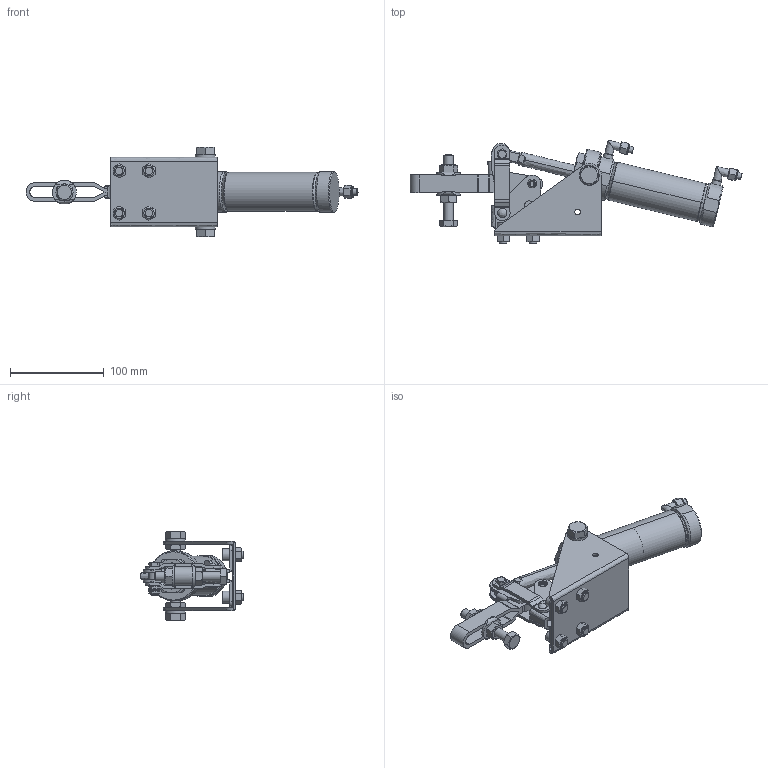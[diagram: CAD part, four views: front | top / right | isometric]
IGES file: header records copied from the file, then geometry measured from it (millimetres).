
Global section: file name: No.AC650V; native system: Autodesk Inventor 2020; preprocessor: unknown; author: 高橋善宗,,11,0,1; organization: 5H20160225.084629; date: 20240416.091805; units: millimetre
Bounding box: 354.5 x 110.74 x 96 mm (x, y, z)
Volume: 328160.3 mm3; surface area: 174259.6 mm2
Topology: 42 solids, 42 shells, 642 faces, 1532 edges, 1018 vertices
Faces by surface type: bspline 642
